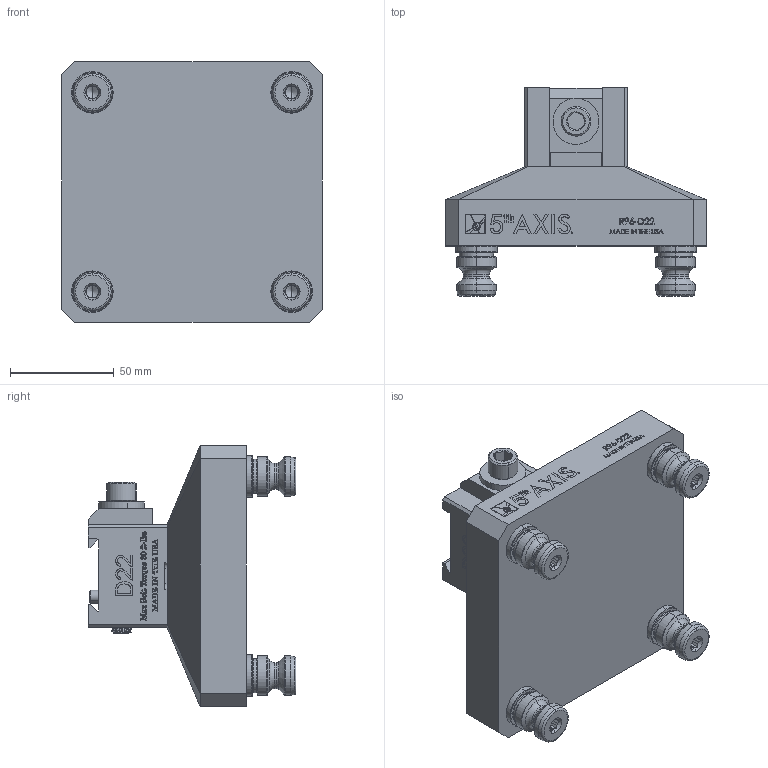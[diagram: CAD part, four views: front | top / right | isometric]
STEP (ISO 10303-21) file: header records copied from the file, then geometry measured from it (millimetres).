
FILE_DESCRIPTION (( 'STEP AP214' ), '1' );
FILE_NAME ('R96-D22.STEP', '2018-01-22T21:02:43', ( '' ), ( '' ), 'SwSTEP 2.0', 'SolidWorks 2017', '' );
FILE_SCHEMA (( 'AUTOMOTIVE_DESIGN' ));
Length unit declared in the file: inch
Products named in the file (15): D221M; LP375_NO THREADS; 91390A162_ALLOY STEEL CUP POINT SET SCREW_91390A162; SLD375_SLD375; CDM375; HW.0480X0625.CS_DEFAULT; .375-16 TIME SERT_03819; LP250_NO THREADS ; PS20F; HW.0406X0875.FW_DEFAULT; D221M-1_D221M; R96-D22; HW.72170_DEFAULT; R96-D221
Assembly tree (18 placements, depth 3):
  R96-D22
    R96-D221
    PS20F  x4
      PS20F
      91390A162_ALLOY STEEL CUP POINT SET SCREW_91390A162
    D221M
      D221M-1_D221M
      LP250_NO THREADS 
      LP375_NO THREADS  x2
      .375-16 TIME SERT_03819
      HW.0480X0625.CS_DEFAULT
      HW.0406X0875.FW_DEFAULT
      HW.72170_DEFAULT
      CDM375
      SLD375_SLD375
Bounding box: 125.73 x 100.2 x 125.76 mm (x, y, z)
Volume: 581822.6 mm3; surface area: 96883.3 mm2
Topology: 19 solids, 19 shells, 2466 faces, 6397 edges, 4115 vertices
Faces by surface type: plane 1172, bspline 588, cylinder 393, cone 201, torus 112
Entity records: 102843 total; most frequent: CARTESIAN_POINT 43692, ORIENTED_EDGE 10524, DIRECTION 7132, EDGE_CURVE 5262, VERTEX_POINT 3462, VECTOR 3432, LINE 3432, EDGE_LOOP 2184
